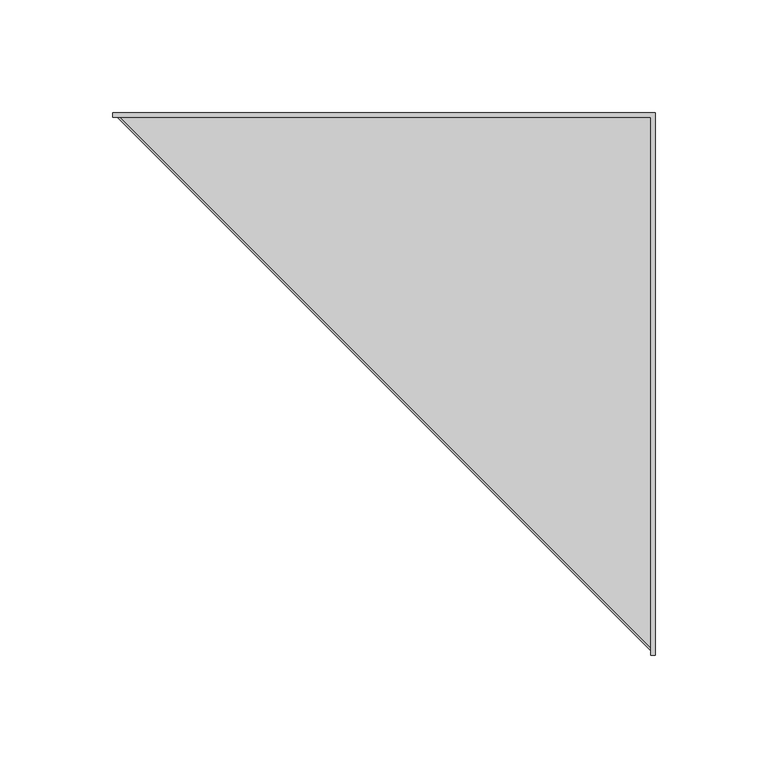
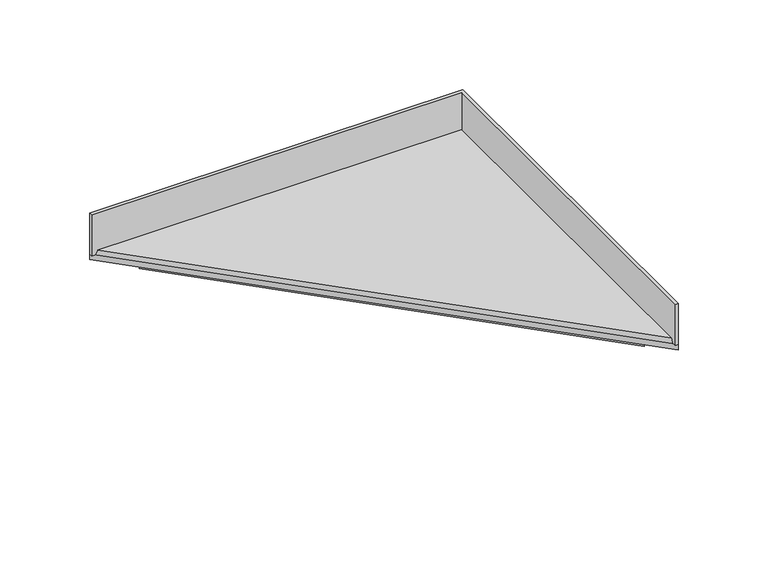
"""IFC4 building model written with IfcOpenShell, lengths in millimetres: sanitary terminal geometry, NLRS_PF_52_UN_Aqua Plus Delta_in_uitloop_Easydrain : Aqua Plus Delta onderuitloop 50mm, zij-ingang 40mm."""

from ifc_helpers import new_model, si_unit, frame, origin, place, context, project, spatial, polyline, outline, extrude, faceted_brep, source, transform, mapped, element, save


def sanitary_terminal_5c7f7aa6(model_context):
    return source(origin(), model_context, "Body", "SolidModel", [
        extrude(outline(polyline([(-167.0, 71.0), (-167.0, 73.0), (73.0, 73.0), (73.0, -167.0), (71.0, -167.0), (71.0, 71.0), (-167.0, 71.0)])), frame((0.0, 0.0, -3.0), z_axis=(0.0, 0.0, 1.0), x_axis=(1.0, 0.0, 0.0)), (0.0, 0.0, 1.0), 28.0),
        faceted_brep([(73.0, 73.0, -6.5), (73.0, -167.0, -6.5), (-167.0, 73.0, -6.5), (72.0, -164.5857864, 0.0), (72.0, 72.0, 0.0), (-164.5857864, 72.0, 0.0), (-167.0, 73.0, -3.0), (73.0, 73.0, -3.0), (73.0, -167.0, -3.0)], [[[0, 1, 2]], [[3, 4, 5]], [[0, 2, 6, 7]], [[2, 1, 8, 6]], [[1, 0, 7, 8]], [[3, 8, 7, 4]], [[8, 3, 5, 6]], [[4, 7, 6, 5]]]),
        extrude(outline(polyline([(68.0, 68.0), (68.0, -137.9289322), (-137.9289322, 68.0), (68.0, 68.0)])), frame((0.0, 0.0, -20.0), z_axis=(0.0, 0.0, 1.0), x_axis=(1.0, 0.0, 0.0)), (0.0, 0.0, 1.0), 13.5),
    ])


if __name__ == "__main__":
    model = new_model("IFC4")
    model_context = context("Model", 3, world=origin())
    ifc_project = project(units=[si_unit("LENGTHUNIT", "METRE", prefix="MILLI")], contexts=[model_context])
    site = spatial("IfcSite", under=ifc_project)
    building = spatial("IfcBuilding", under=site)
    placement = place(None, origin())
    sanitary_terminal_shape = sanitary_terminal_5c7f7aa6(model_context)
    element("IfcSanitaryTerminal", 1, ObjectType="NLRS_PF_52_UN_Aqua Plus Delta_in_uitloop_Easydrain : Aqua Plus Delta onderuitloop 50mm, zij-ingang 40mm", at=placement, inside=building, context=model_context, shape_type="MappedRepresentation", body=[
        mapped(sanitary_terminal_shape, transform((0.0, 0.0, 0.0), x_axis=(1.0, 0.0, 0.0), y_axis=(0.0, 1.0, 0.0), z_axis=(0.0, 0.0, 1.0))),
    ])
    save(model, "model.ifc")
